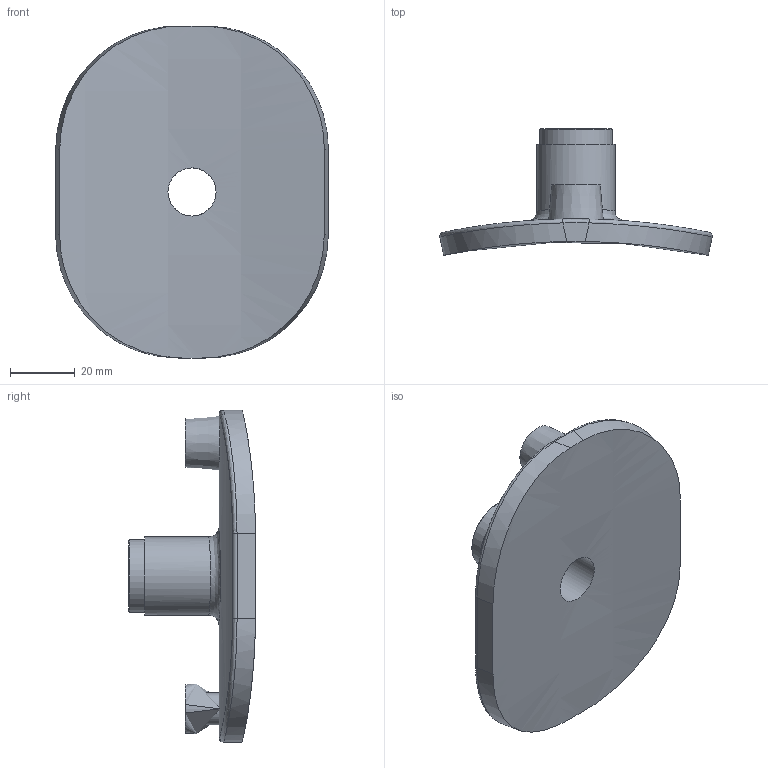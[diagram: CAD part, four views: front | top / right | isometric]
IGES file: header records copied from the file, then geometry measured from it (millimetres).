
Global section: file name: 5938S3400005.ipt; native system: Autodesk Inventor 2019; preprocessor: unknown; author: 12HКирилл; date: 20210830.101201; units: inch
Bounding box: 84.39 x 39.25 x 102.87 mm (x, y, z)
Volume: 57801 mm3; surface area: 22394.3 mm2
Topology: 1 solids, 2 shells, 41 faces, 83 edges, 54 vertices
Faces by surface type: plane 12, cylinder 12, revolution 9, bspline 5, cone 3
Full cylindrical faces by diameter (mm): 4 x2, 22.357 x1, 24.22 x1
